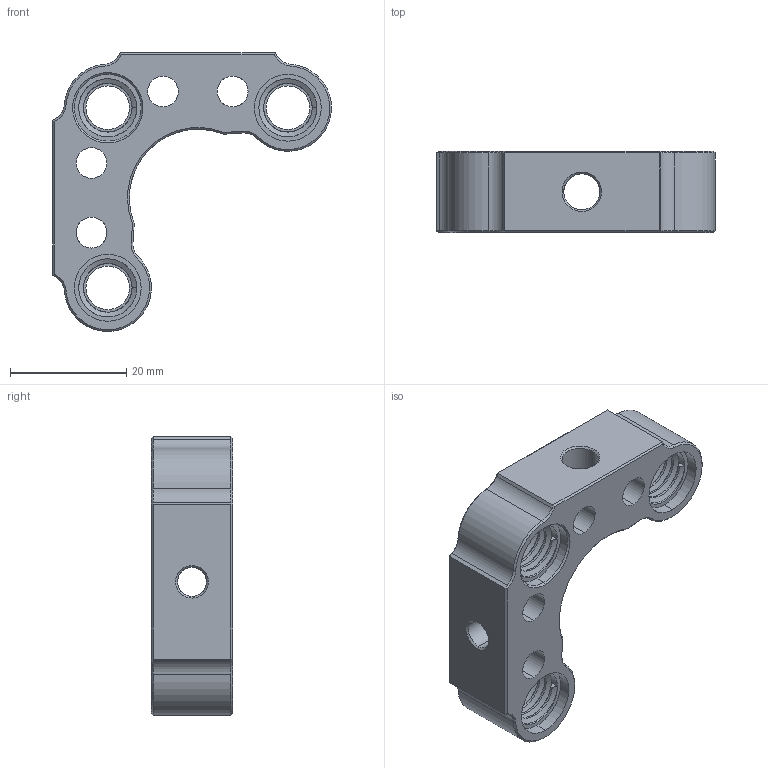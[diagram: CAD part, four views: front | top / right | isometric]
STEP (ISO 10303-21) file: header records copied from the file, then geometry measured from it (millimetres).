
FILE_DESCRIPTION (( 'STEP AP214' ), '1' );
FILE_NAME ('1英寸定板（M6螺纹+6.2通孔，均无沉头）.STEP', '2026-09-02T02:35:03', ( '' ), ( '' ), 'SwSTEP 2.0', 'SolidWorks 2024', '' );
FILE_SCHEMA (( 'AUTOMOTIVE_DESIGN' ));
Length unit declared in the file: millimetre
Products named in the file (1): 1英寸定板（M6螺纹+6.2通孔，均无沉头）
Bounding box: 48 x 14 x 48 mm (x, y, z)
Volume: 10262.4 mm3; surface area: 7373.9 mm2
Topology: 1 solids, 1 shells, 241 faces, 596 edges, 366 vertices
Faces by surface type: cylinder 94, plane 78, cone 56, bspline 13
Entity records: 15936 total; most frequent: CARTESIAN_POINT 10417, ORIENTED_EDGE 1192, DIRECTION 1102, EDGE_CURVE 596, AXIS2_PLACEMENT_3D 415, VERTEX_POINT 366, LINE 272, VECTOR 272
